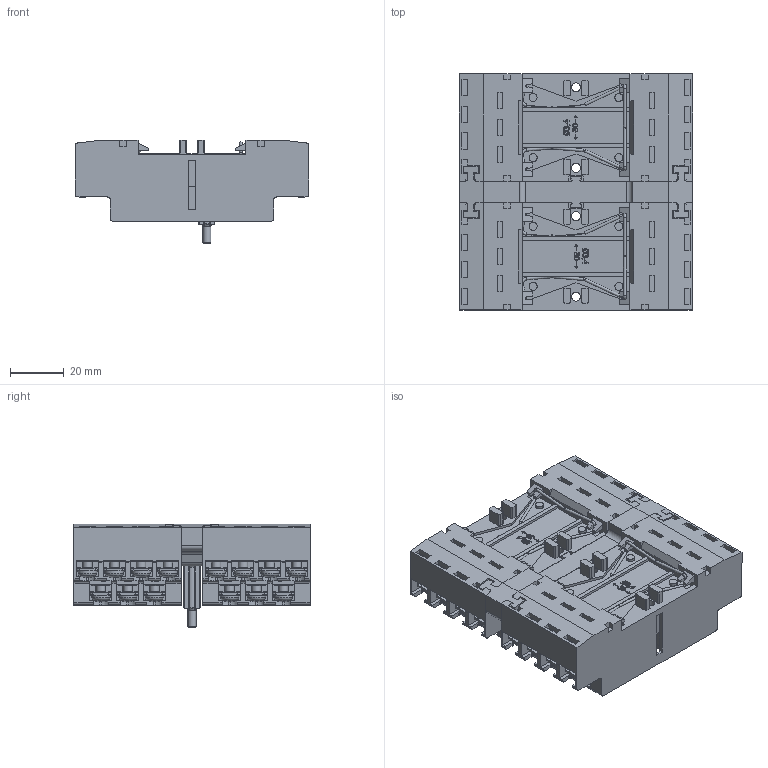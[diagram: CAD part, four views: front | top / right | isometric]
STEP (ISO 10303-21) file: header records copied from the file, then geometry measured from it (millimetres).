
FILE_DESCRIPTION((''),'2;1');
FILE_NAME('I:\TI\Bibliotheek\Inventor\Relais voeten\V93\V93.stp','2012-01-16T15:06:07',('a.vos'),(''),'Autodesk Inventor 2012','Autodesk Inventor 2012','');
FILE_SCHEMA(('CONFIG_CONTROL_DESIGN'));
Length unit declared in the file: millimetre
Products named in the file (1): V93
Bounding box: 87 x 88 x 38.5 mm (x, y, z)
Volume: 155138.9 mm3; surface area: 51971.3 mm2
Topology: 1 solids, 1 shells, 7619 faces, 20704 edges, 13320 vertices
Faces by surface type: plane 5834, cylinder 698, bspline 603, cone 308, torus 120, sphere 56
Full cylindrical faces by diameter (mm): 1 x24, 3 x9, 3.175 x28, 3.4 x4, 3.5 x56
Entity records: 247910 total; most frequent: CARTESIAN_POINT 55153, ORIENTED_EDGE 40664, DIRECTION 34435, EDGE_CURVE 20332, VECTOR 15711, LINE 15711, VERTEX_POINT 13169, AXIS2_PLACEMENT_3D 9362
